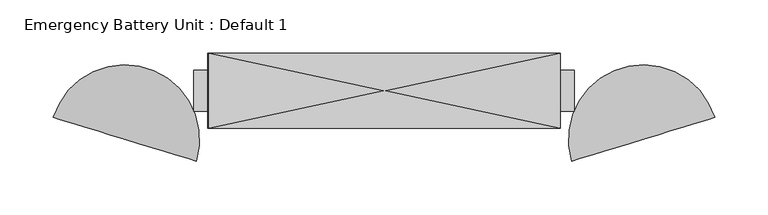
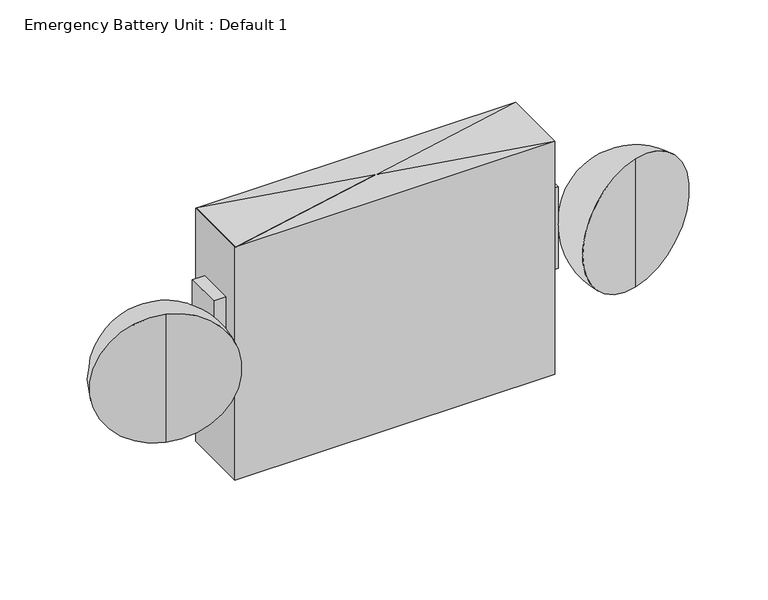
"""IFC4 building model written with IfcOpenShell, lengths in millimetres: proxy geometry, Emergency Battery Unit : Default 1."""

import ifcopenshell
import ifcopenshell.guid

model = None  # the IFC model being written
_history = None  # IfcOwnerHistory: only IFC2X3 demands one
_inside = {}  # id of a spatial element -> (the spatial element, [elements in it])
_under = {}  # id of a project, library or spatial element -> (it, [spatial elements below it])
_declared = {}  # id of a project -> (the project, [libraries it declares])
_typed = {}  # id of a type object -> (the type object, [elements of that type])
_made_of = {}  # id of a material, layer set ... -> (it, [elements and type objects made of it])


def new_model(schema):
    """Start an empty IFC model of exactly this schema.

    Asked for "IFC4X3", IfcOpenShell would pick the latest addendum, in which some entities
    have other attributes; the version numbers below select the first issue.
    IFC2X3 requires an IfcOwnerHistory on every rooted entity: one is made here for all.
    """
    global model, _history
    if schema == "IFC4X3":
        model = ifcopenshell.file(schema_version=(4, 3, 0, 0))
    else:
        model = ifcopenshell.file(schema=schema)
    _inside.clear()
    _under.clear()
    _declared.clear()
    _typed.clear()
    _made_of.clear()
    _history = None
    if model.schema == "IFC2X3":
        org = make("IfcOrganization", Name="unknown")
        user = make(
            "IfcPersonAndOrganization",
            ThePerson=make("IfcPerson", FamilyName="unknown"),
            TheOrganization=org,
        )
        app = make(
            "IfcApplication",
            ApplicationDeveloper=org,
            Version="unknown",
            ApplicationFullName="unknown",
            ApplicationIdentifier="unknown",
        )
        _history = make(
            "IfcOwnerHistory",
            OwningUser=user,
            OwningApplication=app,
            ChangeAction="ADDED",
            CreationDate=0,
        )
    return model


def make(cls, **values):
    """One entity of the class cls with the attributes given. An attribute that is None is left unset."""
    return model.create_entity(
        cls, **{name: value for name, value in values.items() if value is not None}
    )


def rooted(cls, **values):
    """An entity with a GlobalId (a new one), such as an element, a storey or a relation."""
    return make(cls, GlobalId=ifcopenshell.guid.new(), OwnerHistory=_history, **values)


def si_unit(unit_type, name, prefix=None):
    """IfcSIUnit, for example si_unit("LENGTHUNIT", "METRE", prefix="MILLI")."""
    return make("IfcSIUnit", UnitType=unit_type, Prefix=prefix, Name=name)


def assignment(units):
    """IfcUnitAssignment: the units of a project."""
    return None if units is None else make("IfcUnitAssignment", Units=units)


def point(xyz):
    """IfcCartesianPoint."""
    return None if xyz is None else make("IfcCartesianPoint", Coordinates=xyz)


def direction(xyz):
    """IfcDirection."""
    return None if xyz is None else make("IfcDirection", DirectionRatios=xyz)


def frame(location, z_axis=None, x_axis=None):
    """IfcAxis2Placement3D, a coordinate frame: its origin and axes. An axis left out is left unset."""
    return make(
        "IfcAxis2Placement3D",
        Location=point(location),
        Axis=direction(z_axis),
        RefDirection=direction(x_axis),
    )


def origin():
    """The frame at (0, 0, 0) with its axes left unset."""
    return frame((0.0, 0.0, 0.0))


def place(relative_to, where):
    """IfcLocalPlacement: puts the frame where relative to a parent placement (None: the world)."""
    return make(
        "IfcLocalPlacement", PlacementRelTo=relative_to, RelativePlacement=where
    )


def context(
    kind, dimensions, precision=None, world=None, true_north=None, identifier=None
):
    """IfcGeometricRepresentationContext, for example the 3D "Model" context."""
    return make(
        "IfcGeometricRepresentationContext",
        ContextIdentifier=identifier,
        ContextType=kind,
        CoordinateSpaceDimension=dimensions,
        Precision=precision,
        WorldCoordinateSystem=world,
        TrueNorth=true_north,
    )


def project(units=None, contexts=None):
    """IfcProject with its units and contexts."""
    return rooted(
        "IfcProject",
        Name="project",
        RepresentationContexts=contexts,
        UnitsInContext=assignment(units),
    )


def spatial(cls, under=None, at=None, **own):
    """A site, building, storey or space (cls), placed at a placement, below another one or the project."""
    s = rooted(cls, ObjectPlacement=at, **own)
    if under is not None:
        _under.setdefault(under.id(), (under, []))[1].append(s)
    return s


def polyline(points):
    """IfcPolyline through the points."""
    return make("IfcPolyline", Points=[point(p) for p in points])


def circle_curve(where, radius):
    """IfcCircle in the frame where."""
    return make("IfcCircle", Position=where, Radius=radius)


def ellipse_curve(where, semi_axis1, semi_axis2):
    """IfcEllipse in the frame where."""
    return make(
        "IfcEllipse", Position=where, SemiAxis1=semi_axis1, SemiAxis2=semi_axis2
    )


def trimmed(basis, trim1, trim2, sense, master):
    """IfcTrimmedCurve: the piece of a basis curve between two trims."""
    return make(
        "IfcTrimmedCurve",
        BasisCurve=basis,
        Trim1=trim1,
        Trim2=trim2,
        SenseAgreement=sense,
        MasterRepresentation=master,
    )


def outline(outer, holes=None, kind="AREA"):
    """IfcArbitraryClosedProfileDef: a profile drawn as a closed curve; with holes, ...WithVoids."""
    if holes is None:
        return make("IfcArbitraryClosedProfileDef", ProfileType=kind, OuterCurve=outer)
    return make(
        "IfcArbitraryProfileDefWithVoids",
        ProfileType=kind,
        OuterCurve=outer,
        InnerCurves=holes,
    )


def extrude(swept, where, along, depth):
    """IfcExtrudedAreaSolid: the profile swept, set in the frame where, extruded along a direction by depth."""
    return make(
        "IfcExtrudedAreaSolid",
        SweptArea=swept,
        Position=where,
        ExtrudedDirection=direction(along),
        Depth=depth,
    )


def shape(context_of_items, identifier, shape_type, items):
    """IfcShapeRepresentation: the items that make up one representation, for example the "Body"."""
    return make(
        "IfcShapeRepresentation",
        ContextOfItems=context_of_items,
        RepresentationIdentifier=identifier,
        RepresentationType=shape_type,
        Items=items,
    )


def source(mapping_origin, context_of_items, identifier, shape_type, items):
    """IfcRepresentationMap: a shape defined once, which mapped items show again and again."""
    return make(
        "IfcRepresentationMap",
        MappingOrigin=mapping_origin,
        MappedRepresentation=shape(context_of_items, identifier, shape_type, items),
    )


def transform(
    local_origin,
    x_axis=None,
    y_axis=None,
    z_axis=None,
    scale=None,
    scale2=None,
    scale3=None,
    uniform=True,
):
    """IfcCartesianTransformationOperator3D, or its non-uniform kind. x_axis, y_axis, z_axis: its Axis1, 2, 3."""
    if uniform:
        return make(
            "IfcCartesianTransformationOperator3D",
            Axis1=direction(x_axis),
            Axis2=direction(y_axis),
            LocalOrigin=point(local_origin),
            Scale=scale,
            Axis3=direction(z_axis),
        )
    return make(
        "IfcCartesianTransformationOperator3DnonUniform",
        Axis1=direction(x_axis),
        Axis2=direction(y_axis),
        LocalOrigin=point(local_origin),
        Scale=scale,
        Axis3=direction(z_axis),
        Scale2=scale2,
        Scale3=scale3,
    )


def mapped(mapping_source, mapping_target):
    """IfcMappedItem: shows the shape of a source again, moved by a transform."""
    return make(
        "IfcMappedItem", MappingSource=mapping_source, MappingTarget=mapping_target
    )


def made_of(thing, what):
    """Note that an element or type object is made of a material, layer set ...; save() writes the relation."""
    if what is not None:
        _made_of.setdefault(what.id(), (what, []))[1].append(thing)
    return thing


def element(
    cls,
    number,
    at=None,
    inside=None,
    cuts=None,
    type_object=None,
    material=None,
    context=None,
    identifier="Body",
    shape_type=None,
    held_by="IfcProductDefinitionShape",
    body=None,
    shapes=None,
    **own,
):
    """One element of the class cls, such as IfcWall. Its Tag is "e" and its number.

    at: its placement. inside: the storey or other place that contains it. cuts: it is an
    opening in that element (IfcRelVoidsElement). A single representation is given by context,
    identifier, shape_type and body (its items); several are given by shapes. held_by: the class
    of the entity that holds the representations. save() writes the other relations.
    """
    e = rooted(cls, Tag="e%d" % number, ObjectPlacement=at, **own)
    if body is not None:
        shapes = [shape(context, identifier, shape_type, body)]
    if shapes is not None:
        e.Representation = make(held_by, Representations=shapes)
    if inside is not None:
        _inside.setdefault(inside.id(), (inside, []))[1].append(e)
    if cuts is not None:
        rooted(
            "IfcRelVoidsElement", RelatingBuildingElement=cuts, RelatedOpeningElement=e
        )
    if type_object is not None:
        _typed.setdefault(type_object.id(), (type_object, []))[1].append(e)
    return made_of(e, material)


def aggregate(whole, parts):
    """IfcRelAggregates: a whole, such as a stair, and the parts it consists of."""
    return rooted("IfcRelAggregates", RelatingObject=whole, RelatedObjects=parts)


def save(model, path):
    """Write the relations noted so far, then the file.

    IfcRelAggregates (storeys below a building ...), IfcRelContainedInSpatialStructure (elements
    in a storey), IfcRelDefinesByType, IfcRelAssociatesMaterial and IfcRelDeclares: one each for
    every whole, place, type object, material and project.
    """
    for whole, parts in _under.values():
        aggregate(whole, parts)
    for where, things in _inside.values():
        rooted(
            "IfcRelContainedInSpatialStructure",
            RelatedElements=things,
            RelatingStructure=where,
        )
    for kind, things in _typed.values():
        rooted("IfcRelDefinesByType", RelatedObjects=things, RelatingType=kind)
    for what, things in _made_of.values():
        rooted("IfcRelAssociatesMaterial", RelatedObjects=things, RelatingMaterial=what)
    for by, libraries in _declared.values():
        rooted("IfcRelDeclares", RelatingContext=by, RelatedDefinitions=libraries)
    model.write(path)


def plane_surface(at):
    """IfcPlane: the flat surface through the origin of the frame at, square to its z axis."""
    return make("IfcPlane", Position=at)


def revolved_surface(curve, axis_point, axis_direction):
    """IfcSurfaceOfRevolution: the curve turned about the line through axis_point along axis_direction."""
    return make(
        "IfcSurfaceOfRevolution",
        SweptCurve=make("IfcArbitraryOpenProfileDef", ProfileType="CURVE", Curve=curve),
        AxisPosition=make("IfcAxis1Placement", Location=point(axis_point), Axis=direction(axis_direction)),
    )


def advanced_brep(points, edges, surfaces, faces):
    """IfcAdvancedBrep: a solid bounded by faces that lie on surfaces and meet in shared edges.

    An edge is (start, end): straight between two places in points (the first is 0);
    or (start, end, curve); or (start, end, curve, False) where it runs against its curve.
    A face is (place in surfaces, loops), or (place, loops, False) where it looks against
    its surface's normal. A loop lists edges by number (the first is 1), with a minus sign
    where the edge is run from its end to its start. The first loop is the outer one.
    """
    corners = [point(p) for p in points]
    vertices = [make("IfcVertexPoint", VertexGeometry=c) for c in corners]
    made = []
    for start, end, *more in edges:
        made.append(
            make(
                "IfcEdgeCurve",
                EdgeStart=vertices[start],
                EdgeEnd=vertices[end],
                EdgeGeometry=more[0] if more else make("IfcPolyline", Points=[corners[start], corners[end]]),
                SameSense=more[1] if len(more) > 1 else True,
            )
        )
    hull = []
    for where, loops, *sense in faces:
        bounds = []
        for j, loop in enumerate(loops):
            ring = [make("IfcOrientedEdge", EdgeElement=made[abs(k) - 1], Orientation=k > 0) for k in loop]
            bounds.append(
                make(
                    "IfcFaceOuterBound" if j == 0 else "IfcFaceBound",
                    Bound=make("IfcEdgeLoop", EdgeList=ring),
                    Orientation=True,
                )
            )
        hull.append(make("IfcAdvancedFace", Bounds=bounds, FaceSurface=surfaces[where], SameSense=sense[0] if sense else True))
    return make("IfcAdvancedBrep", Outer=make("IfcClosedShell", CfsFaces=hull))


def emergency_battery_unit_default_1_01bbe0c5(model_context):
    return source(origin(), model_context, "Body", "SolidModel", [
        extrude(outline(polyline([(-164.6160594, 915.0088236), (-164.6160594, 984.8588236), (-1.3526958, 949.9338236), (-164.6160594, 915.0088236)])), frame((0.0, 0.0, 2438.4), z_axis=(0.0, 0.0, 1.0), x_axis=(1.0, 0.0, 0.0)), (0.0, 0.0, 1.0), 0.254),
        extrude(outline(polyline([(164.6160594, 915.0088236), (1.3526958, 949.9338236), (164.6160594, 984.8588236), (164.6160594, 915.0088236)])), frame((0.0, 0.0, 2438.4), z_axis=(0.0, 0.0, 1.0), x_axis=(1.0, 0.0, 0.0)), (0.0, 0.0, 1.0), 0.254),
        advanced_brep(
        [(242.0100861, 904.5455357, 2398.7959372), (242.0100861, 904.5455357, 2259.0959372)],
        [
            (0, 1),
            (1, 0, circle_curve(frame((242.0100861, 904.5455357, 2328.9459372), z_axis=(0.29237170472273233, -0.9563047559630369, 0.0), x_axis=(0.0, 0.0, -1.0)), 69.85)),
            (0, 1, circle_curve(frame((242.0100861, 904.5455357, 2328.9459372), z_axis=(0.2923717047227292, -0.9563047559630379, 0.0), x_axis=(0.0, 0.0, -1.0)), 69.85)),
        ],
        [
            plane_surface(frame((242.0100861, 904.5455357, 2401.9709372), z_axis=(0.2923717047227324, -0.9563047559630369, 0.0), x_axis=(0.9563047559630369, 0.2923717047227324, 0.0))),
            plane_surface(frame((242.0100861, 904.5455357, 2401.9709372), z_axis=(0.2923717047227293, -0.9563047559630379, 0.0), x_axis=(-0.9563047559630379, -0.2923717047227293, 0.0))),
            revolved_surface(trimmed(ellipse_curve(frame((242.0100861, 904.5455357, 2328.9459372), z_axis=(-0.29237170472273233, 0.9563047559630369, 0.0), x_axis=(0.0, 0.0, -1.0)), 69.85, 69.85), [point((242.0100861, 904.5455357, 2398.7959372))], [point((242.0100861, 904.5455357, 2259.0959372))], True, "CARTESIAN"), (242.0100861, 904.5455357, 2401.9709372), (0.0, 0.0, -1.0)),
        ],
        [
            (0, [[1, 2]]),
            (1, [[3, -1]]),
            (2, [[-2, -3]]),
        ],
    ),
        advanced_brep(
        [(-242.9779673, 904.5455357, 2398.7959372), (-242.9779673, 904.5455357, 2259.0959372)],
        [
            (0, 1, circle_curve(frame((-242.9779673, 904.5455357, 2328.9459372), z_axis=(-0.29237170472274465, -0.9563047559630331, 0.0), x_axis=(0.0, 0.0, -1.0)), 69.85)),
            (1, 0),
            (1, 0, circle_curve(frame((-242.9779673, 904.5455357, 2328.9459372), z_axis=(-0.29237170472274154, -0.9563047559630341, 0.0), x_axis=(0.0, 0.0, -1.0)), 69.85)),
        ],
        [
            plane_surface(frame((-242.9779673, 904.5455357, 2401.9709372), z_axis=(-0.2923717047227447, -0.9563047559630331, 0.0), x_axis=(-0.9563047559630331, 0.2923717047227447, 0.0))),
            plane_surface(frame((-242.9779673, 904.5455357, 2401.9709372), z_axis=(-0.2923717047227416, -0.9563047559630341, 0.0), x_axis=(0.9563047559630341, -0.2923717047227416, 0.0))),
            revolved_surface(trimmed(ellipse_curve(frame((-242.9779673, 904.5455357, 2328.9459372), z_axis=(0.29237170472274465, 0.9563047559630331, 0.0), x_axis=(0.0, 0.0, -1.0)), 69.85, 69.85), [point((-242.9779673, 904.5455357, 2259.0959372))], [point((-242.9779673, 904.5455357, 2398.7959372))], True, "CARTESIAN"), (-242.9779673, 904.5455357, 2401.9709372), (0.0, 0.0, 1.0)),
        ],
        [
            (0, [[1, 2]]),
            (1, [[3, -2]]),
            (2, [[-1, -3]]),
        ],
    ),
        extrude(outline(polyline([(177.3160594, 968.9838236), (177.3160594, 930.8838236), (164.6160594, 930.8838236), (164.6160594, 968.9838236), (177.3160594, 968.9838236)])), frame((0.0, 0.0, 2286.0), z_axis=(0.0, 0.0, 1.0), x_axis=(1.0, 0.0, 0.0)), (0.0, 0.0, 1.0), 88.9),
        extrude(outline(polyline([(-178.2839406, 930.8838236), (-178.2839406, 968.9838236), (-165.5839406, 968.9838236), (-165.5839406, 930.8838236), (-178.2839406, 930.8838236)])), frame((0.0, 0.0, 2286.0), z_axis=(0.0, 0.0, 1.0), x_axis=(1.0, 0.0, 0.0)), (0.0, 0.0, 1.0), 88.9),
        extrude(outline(polyline([(-165.5839406, 984.8588236), (164.6160594, 984.8588236), (164.6160594, 915.0088236), (-165.5839406, 915.0088236), (-165.5839406, 984.8588236)])), frame((0.0, 0.0, 2184.4), z_axis=(0.0, 0.0, 1.0), x_axis=(1.0, 0.0, 0.0)), (0.0, 0.0, 1.0), 254.0),
    ])


if __name__ == "__main__":
    model = new_model("IFC4")
    model_context = context("Model", 3, world=origin())
    ifc_project = project(units=[si_unit("LENGTHUNIT", "METRE", prefix="MILLI")], contexts=[model_context])
    site = spatial("IfcSite", under=ifc_project)
    building = spatial("IfcBuilding", under=site)
    placement = place(None, origin())
    emergency_battery_unit_default_1_shape = emergency_battery_unit_default_1_01bbe0c5(model_context)
    element("IfcBuildingElementProxy", 1, Name="Emergency Battery Unit : Default 1", ObjectType="Emergency Battery Unit : Default 1", at=placement, inside=building, context=model_context, shape_type="MappedRepresentation", body=[
        mapped(emergency_battery_unit_default_1_shape, transform((0.0, 0.0, 0.0), x_axis=(1.0, 0.0, 0.0), y_axis=(0.0, 1.0, 0.0), z_axis=(0.0, 0.0, 1.0))),
    ])
    save(model, "model.ifc")
